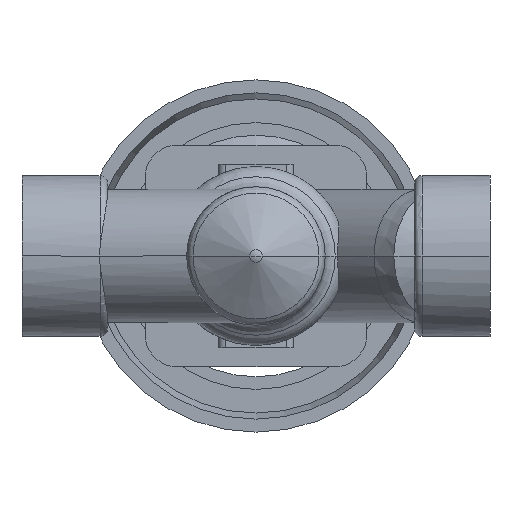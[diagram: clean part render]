
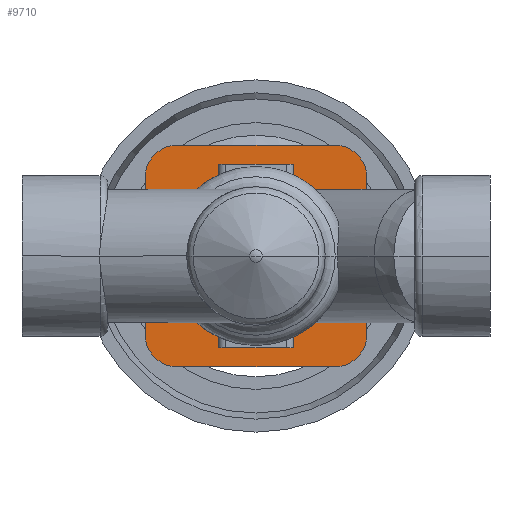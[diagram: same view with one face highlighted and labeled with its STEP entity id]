
A CAD part, front view. The second image highlights one B-rep face of the part: STEP entity #9710.
In plain terms, the highlighted planar face has unit normal (0, -1, 0).
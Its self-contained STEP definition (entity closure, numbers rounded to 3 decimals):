
#3370=CARTESIAN_POINT('',(78.,56.5,32.175));
#3380=VERTEX_POINT('',#3370);
#3900=CARTESIAN_POINT('',(108.,56.5,32.175));
#3910=VERTEX_POINT('',#3900);
#3940=CARTESIAN_POINT('',(93.,56.5,0.));
#3950=DIRECTION('',(0.,1.,0.));
#3960=DIRECTION('',(1.,0.,0.));
#3970=AXIS2_PLACEMENT_3D('',#3940,#3950,#3960);
#3980=CIRCLE('',#3970,35.5);
#3990=CARTESIAN_POINT('',(118.775,56.5,24.411));
#4000=VERTEX_POINT('',#3990);
#4010=EDGE_CURVE('',#3910,#4000,#3980,.T.);
#4960=CARTESIAN_POINT('',(57.5,56.5,0.));
#4970=VERTEX_POINT('',#4960);
#5000=CARTESIAN_POINT('',(93.,56.5,0.));
#5010=DIRECTION('',(0.,1.,0.));
#5020=DIRECTION('',(1.,0.,0.));
#5030=AXIS2_PLACEMENT_3D('',#5000,#5010,#5020);
#5040=CIRCLE('',#5030,35.5);
#5050=EDGE_CURVE('',#4970,#3380,#5040,.T.);
#8110=CARTESIAN_POINT('',(139.75,56.5,0.));
#8120=DIRECTION('',(0.,-1.,0.));
#8130=DIRECTION('',(-1.,0.,0.));
#8140=AXIS2_PLACEMENT_3D('',#8110,#8120,#8130);
#8150=PLANE('',#8140);
#8160=CARTESIAN_POINT('',(137.113,56.5,-15.556));
#8170=DIRECTION('',(0.,0.,1.));
#8180=VECTOR('',#8170,1.);
#8190=LINE('',#8160,#8180);
#8200=CARTESIAN_POINT('',(137.113,56.5,-31.113));
#8210=VERTEX_POINT('',#8200);
#8220=CARTESIAN_POINT('',(137.113,56.5,-12.24));
#8230=VERTEX_POINT('',#8220);
#8240=EDGE_CURVE('',#8210,#8230,#8190,.T.);
#8250=ORIENTED_EDGE('',*,*,#8240,.T.);
#8260=CARTESIAN_POINT('',(124.113,56.5,-31.113));
#8270=DIRECTION('',(0.,-1.,0.));
#8280=DIRECTION('',(1.,0.,0.));
#8290=AXIS2_PLACEMENT_3D('',#8260,#8270,#8280);
#8300=CIRCLE('',#8290,13.);
#8310=CARTESIAN_POINT('',(124.113,56.5,-44.113));
#8320=VERTEX_POINT('',#8310);
#8330=EDGE_CURVE('',#8320,#8210,#8300,.T.);
#8340=ORIENTED_EDGE('',*,*,#8330,.T.);
#8350=CARTESIAN_POINT('',(100.819,56.5,-44.113));
#8360=DIRECTION('',(1.,0.,0.));
#8370=VECTOR('',#8360,1.);
#8380=LINE('',#8350,#8370);
#8390=CARTESIAN_POINT('',(61.887,56.5,-44.113));
#8400=VERTEX_POINT('',#8390);
#8410=EDGE_CURVE('',#8400,#8320,#8380,.T.);
#8420=ORIENTED_EDGE('',*,*,#8410,.T.);
#8430=CARTESIAN_POINT('',(61.887,56.5,-31.113));
#8440=DIRECTION('',(0.,-1.,0.));
#8450=DIRECTION('',(0.,0.,-1.));
#8460=AXIS2_PLACEMENT_3D('',#8430,#8440,#8450);
#8470=CIRCLE('',#8460,13.);
#8480=CARTESIAN_POINT('',(48.887,56.5,-31.113));
#8490=VERTEX_POINT('',#8480);
#8500=EDGE_CURVE('',#8490,#8400,#8470,.T.);
#8510=ORIENTED_EDGE('',*,*,#8500,.T.);
#8520=CARTESIAN_POINT('',(48.887,56.5,15.556));
#8530=DIRECTION('',(0.,0.,-1.));
#8540=VECTOR('',#8530,1.);
#8550=LINE('',#8520,#8540);
#8560=CARTESIAN_POINT('',(48.887,56.5,31.113));
#8570=VERTEX_POINT('',#8560);
#8580=EDGE_CURVE('',#8570,#8490,#8550,.T.);
#8590=ORIENTED_EDGE('',*,*,#8580,.T.);
#8600=CARTESIAN_POINT('',(61.887,56.5,31.113));
#8610=DIRECTION('',(0.,-1.,0.));
#8620=DIRECTION('',(-1.,0.,0.));
#8630=AXIS2_PLACEMENT_3D('',#8600,#8610,#8620);
#8640=CIRCLE('',#8630,13.);
#8650=CARTESIAN_POINT('',(61.887,56.5,44.113));
#8660=VERTEX_POINT('',#8650);
#8670=EDGE_CURVE('',#8660,#8570,#8640,.T.);
#8680=ORIENTED_EDGE('',*,*,#8670,.T.);
#8690=CARTESIAN_POINT('',(131.931,56.5,44.113));
#8700=DIRECTION('',(-1.,0.,0.));
#8710=VECTOR('',#8700,1.);
#8720=LINE('',#8690,#8710);
#8730=CARTESIAN_POINT('',(124.113,56.5,44.113));
#8740=VERTEX_POINT('',#8730);
#8750=EDGE_CURVE('',#8740,#8660,#8720,.T.);
#8760=ORIENTED_EDGE('',*,*,#8750,.T.);
#8770=CARTESIAN_POINT('',(124.113,56.5,31.113));
#8780=DIRECTION('',(0.,-1.,0.));
#8790=DIRECTION('',(0.,0.,1.));
#8800=AXIS2_PLACEMENT_3D('',#8770,#8780,#8790);
#8810=CIRCLE('',#8800,13.);
#8820=CARTESIAN_POINT('',(137.113,56.5,31.113));
#8830=VERTEX_POINT('',#8820);
#8840=EDGE_CURVE('',#8830,#8740,#8810,.T.);
#8850=ORIENTED_EDGE('',*,*,#8840,.T.);
#8860=CARTESIAN_POINT('',(137.113,56.5,-15.556));
#8870=DIRECTION('',(0.,0.,1.));
#8880=VECTOR('',#8870,1.);
#8890=LINE('',#8860,#8880);
#8900=CARTESIAN_POINT('',(137.113,56.5,12.24));
#8910=VERTEX_POINT('',#8900);
#8920=EDGE_CURVE('',#8910,#8830,#8890,.T.);
#8930=ORIENTED_EDGE('',*,*,#8920,.T.);
#8940=CARTESIAN_POINT('',(104.439,56.5,0.));
#8950=DIRECTION('',(0.,1.,0.));
#8960=DIRECTION('',(-1.,0.,0.));
#8970=AXIS2_PLACEMENT_3D('',#8940,#8950,#8960);
#8980=ELLIPSE('',#8970,36.839,26.5);
#8990=EDGE_CURVE('',#4000,#8910,#8980,.T.);
#9000=ORIENTED_EDGE('',*,*,#8990,.T.);
#9010=ORIENTED_EDGE('',*,*,#4010,.T.);
#9020=CARTESIAN_POINT('',(108.,56.5,18.25));
#9030=DIRECTION('',(0.,0.,-1.));
#9040=VECTOR('',#9030,1.);
#9050=LINE('',#9020,#9040);
#9060=CARTESIAN_POINT('',(108.,56.5,36.5));
#9070=VERTEX_POINT('',#9060);
#9080=EDGE_CURVE('',#9070,#3910,#9050,.T.);
#9090=ORIENTED_EDGE('',*,*,#9080,.T.);
#9100=CARTESIAN_POINT('',(116.375,56.5,36.5));
#9110=DIRECTION('',(1.,0.,0.));
#9120=VECTOR('',#9110,1.);
#9130=LINE('',#9100,#9120);
#9140=CARTESIAN_POINT('',(78.,56.5,36.5));
#9150=VERTEX_POINT('',#9140);
#9160=EDGE_CURVE('',#9150,#9070,#9130,.T.);
#9170=ORIENTED_EDGE('',*,*,#9160,.T.);
#9180=CARTESIAN_POINT('',(78.,56.5,18.25));
#9190=DIRECTION('',(0.,0.,1.));
#9200=VECTOR('',#9190,1.);
#9210=LINE('',#9180,#9200);
#9220=EDGE_CURVE('',#3380,#9150,#9210,.T.);
#9230=ORIENTED_EDGE('',*,*,#9220,.T.);
#9240=ORIENTED_EDGE('',*,*,#5050,.T.);
#9250=CARTESIAN_POINT('',(78.,56.5,-32.175));
#9260=VERTEX_POINT('',#9250);
#9270=EDGE_CURVE('',#9260,#4970,#5040,.T.);
#9280=ORIENTED_EDGE('',*,*,#9270,.T.);
#9290=CARTESIAN_POINT('',(78.,56.5,18.25));
#9300=DIRECTION('',(0.,0.,1.));
#9310=VECTOR('',#9300,1.);
#9320=LINE('',#9290,#9310);
#9330=CARTESIAN_POINT('',(78.,56.5,-36.5));
#9340=VERTEX_POINT('',#9330);
#9350=EDGE_CURVE('',#9340,#9260,#9320,.T.);
#9360=ORIENTED_EDGE('',*,*,#9350,.T.);
#9370=CARTESIAN_POINT('',(116.375,56.5,-36.5));
#9380=DIRECTION('',(-1.,0.,0.));
#9390=VECTOR('',#9380,1.);
#9400=LINE('',#9370,#9390);
#9410=CARTESIAN_POINT('',(108.,56.5,-36.5));
#9420=VERTEX_POINT('',#9410);
#9430=EDGE_CURVE('',#9420,#9340,#9400,.T.);
#9440=ORIENTED_EDGE('',*,*,#9430,.T.);
#9450=CARTESIAN_POINT('',(108.,56.5,18.25));
#9460=DIRECTION('',(0.,0.,-1.));
#9470=VECTOR('',#9460,1.);
#9480=LINE('',#9450,#9470);
#9490=CARTESIAN_POINT('',(108.,56.5,-32.175));
#9500=VERTEX_POINT('',#9490);
#9510=EDGE_CURVE('',#9500,#9420,#9480,.T.);
#9520=ORIENTED_EDGE('',*,*,#9510,.T.);
#9530=CARTESIAN_POINT('',(93.,56.5,0.));
#9540=DIRECTION('',(0.,1.,0.));
#9550=DIRECTION('',(1.,0.,0.));
#9560=AXIS2_PLACEMENT_3D('',#9530,#9540,#9550);
#9570=CIRCLE('',#9560,35.5);
#9580=CARTESIAN_POINT('',(118.775,56.5,-24.411));
#9590=VERTEX_POINT('',#9580);
#9600=EDGE_CURVE('',#9590,#9500,#9570,.T.);
#9610=ORIENTED_EDGE('',*,*,#9600,.T.);
#9620=CARTESIAN_POINT('',(104.439,56.5,0.));
#9630=DIRECTION('',(0.,1.,0.));
#9640=DIRECTION('',(-1.,0.,0.));
#9650=AXIS2_PLACEMENT_3D('',#9620,#9630,#9640);
#9660=ELLIPSE('',#9650,36.839,26.5);
#9670=EDGE_CURVE('',#8230,#9590,#9660,.T.);
#9680=ORIENTED_EDGE('',*,*,#9670,.T.);
#9690=EDGE_LOOP('',(#9680,#9610,#9520,#9440,#9360,#9280,#9240,#9230,
#9170,#9090,#9010,#9000,#8930,#8850,#8760,#8680,#8590,#8510,#8420,#8340,
#8250));
#9700=FACE_OUTER_BOUND('',#9690,.T.);
#9710=ADVANCED_FACE('',(#9700),#8150,.T.);
